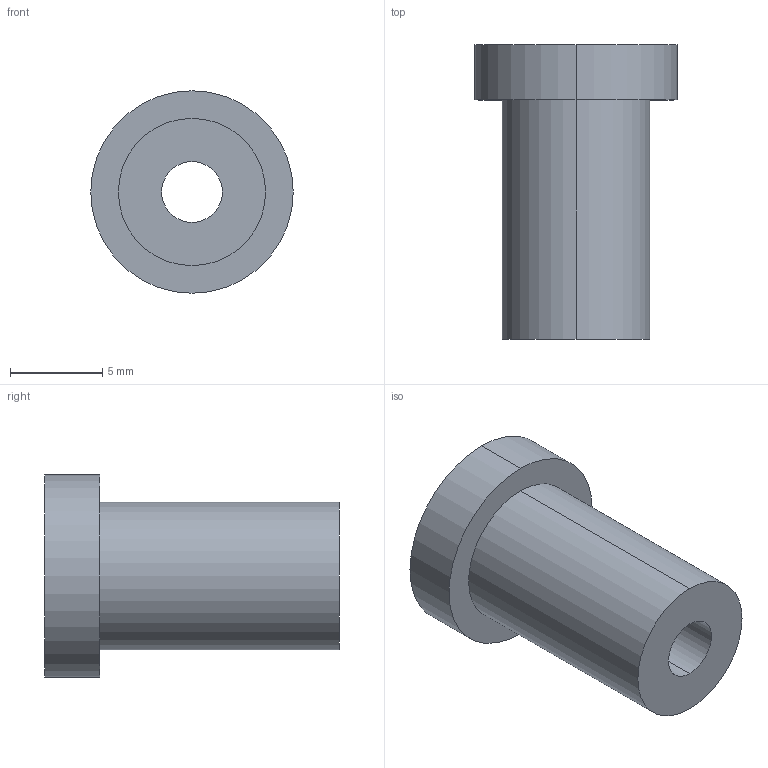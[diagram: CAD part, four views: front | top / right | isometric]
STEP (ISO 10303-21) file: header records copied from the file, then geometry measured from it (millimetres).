
FILE_DESCRIPTION (( 'STEP AP214' ), '1' );
FILE_NAME ('2024-38 - CAGE CARRIER BUTTON.STEP', '2024-08-31T17:05:42', ( '' ), ( '' ), 'SwSTEP 2.0', 'SolidWorks 2024', '' );
FILE_SCHEMA (( 'AUTOMOTIVE_DESIGN' ));
Length unit declared in the file: millimetre
Products named in the file (1): 2024-38 - CAGE CARRIER BUTTON
Bounding box: 11 x 16 x 11 mm (x, y, z)
Volume: 753.3 mm3; surface area: 793.7 mm2
Topology: 1 solids, 1 shells, 12 faces, 24 edges, 16 vertices
Faces by surface type: cylinder 8, plane 4
Entity records: 351 total; most frequent: DIRECTION 66, CARTESIAN_POINT 53, ORIENTED_EDGE 48, AXIS2_PLACEMENT_3D 29, EDGE_CURVE 24, EDGE_LOOP 16, CIRCLE 16, VERTEX_POINT 16
